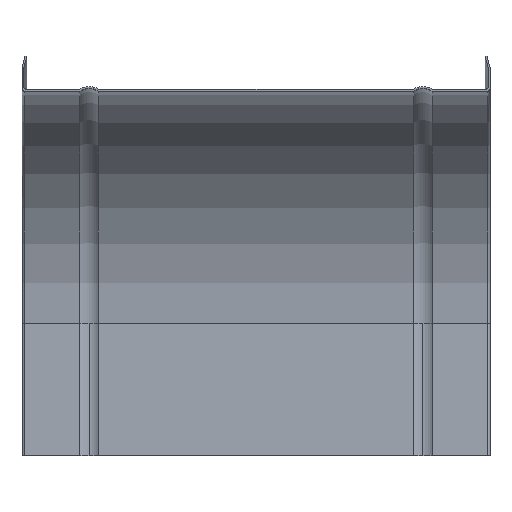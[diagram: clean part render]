
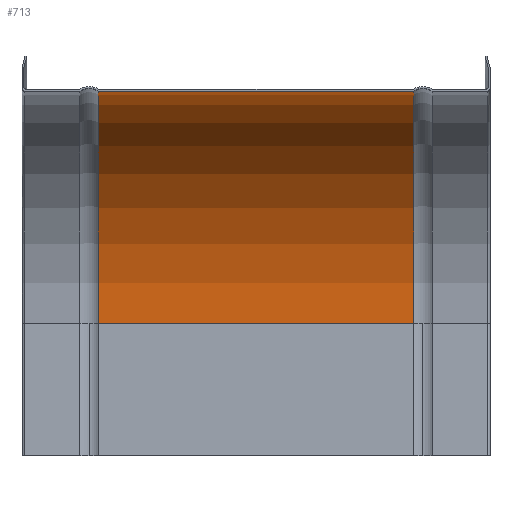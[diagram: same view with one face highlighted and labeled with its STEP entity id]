
A CAD part, top view. The second image highlights one B-rep face of the part: STEP entity #713.
In plain terms, the highlighted cylindrical face has radius 100 mm (diameter 200 mm), a partial arc.
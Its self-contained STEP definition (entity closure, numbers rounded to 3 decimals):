
#29 = ORIENTED_EDGE ( 'NONE', *, *, #1822, .T. ) ;
#173 = CARTESIAN_POINT ( 'NONE',  ( -68., -100., -157. ) ) ;
#199 = DIRECTION ( 'NONE',  ( -1., 0., 0. ) ) ;
#313 = CARTESIAN_POINT ( 'NONE',  ( -68., -100., -157. ) ) ;
#360 = AXIS2_PLACEMENT_3D ( 'NONE', #1870, #661, #1041 ) ;
#490 = VERTEX_POINT ( 'NONE', #2276 ) ;
#601 = FACE_OUTER_BOUND ( 'NONE', #1718, .T. ) ;
#661 = DIRECTION ( 'NONE',  ( -1., 0., 0. ) ) ;
#698 = CARTESIAN_POINT ( 'NONE',  ( 68., -100., -157. ) ) ;
#713 = ADVANCED_FACE ( 'NONE', ( #601 ), #1205, .F. ) ;
#724 = VERTEX_POINT ( 'NONE', #313 ) ;
#896 = VECTOR ( 'NONE', #2456, 1000. ) ;
#993 = VECTOR ( 'NONE', #1366, 1000. ) ;
#1019 = CIRCLE ( 'NONE', #1468, 100. ) ;
#1037 = CARTESIAN_POINT ( 'NONE',  ( -68., -100., -57. ) ) ;
#1040 = LINE ( 'NONE', #2261, #896 ) ;
#1041 = DIRECTION ( 'NONE',  ( 0., 0., 1. ) ) ;
#1205 = CYLINDRICAL_SURFACE ( 'NONE', #2594, 100. ) ;
#1296 = DIRECTION ( 'NONE',  ( -1., 0., 0. ) ) ;
#1366 = DIRECTION ( 'NONE',  ( 1., 0., 0. ) ) ;
#1378 = VERTEX_POINT ( 'NONE', #2228 ) ;
#1405 = EDGE_CURVE ( 'NONE', #490, #1378, #1040, .T. ) ;
#1406 = CIRCLE ( 'NONE', #360, 100. ) ;
#1468 = AXIS2_PLACEMENT_3D ( 'NONE', #1037, #199, #1827 ) ;
#1498 = CARTESIAN_POINT ( 'NONE',  ( 0., -100., -57. ) ) ;
#1577 = LINE ( 'NONE', #173, #993 ) ;
#1581 = ORIENTED_EDGE ( 'NONE', *, *, #1716, .F. ) ;
#1716 = EDGE_CURVE ( 'NONE', #1378, #2007, #1406, .T. ) ;
#1718 = EDGE_LOOP ( 'NONE', ( #2098, #2203, #29, #1581 ) ) ;
#1822 = EDGE_CURVE ( 'NONE', #724, #2007, #1577, .T. ) ;
#1827 = DIRECTION ( 'NONE',  ( 0., 0., 1. ) ) ;
#1870 = CARTESIAN_POINT ( 'NONE',  ( 68., -100., -57. ) ) ;
#2007 = VERTEX_POINT ( 'NONE', #698 ) ;
#2098 = ORIENTED_EDGE ( 'NONE', *, *, #1405, .F. ) ;
#2107 = DIRECTION ( 'NONE',  ( 0., 0., 1. ) ) ;
#2109 = EDGE_CURVE ( 'NONE', #490, #724, #1019, .T. ) ;
#2203 = ORIENTED_EDGE ( 'NONE', *, *, #2109, .T. ) ;
#2228 = CARTESIAN_POINT ( 'NONE',  ( 68., 0., -57. ) ) ;
#2261 = CARTESIAN_POINT ( 'NONE',  ( -68., 0., -57. ) ) ;
#2276 = CARTESIAN_POINT ( 'NONE',  ( -68., 0., -57. ) ) ;
#2456 = DIRECTION ( 'NONE',  ( 1., 0., 0. ) ) ;
#2594 = AXIS2_PLACEMENT_3D ( 'NONE', #1498, #1296, #2107 ) ;
